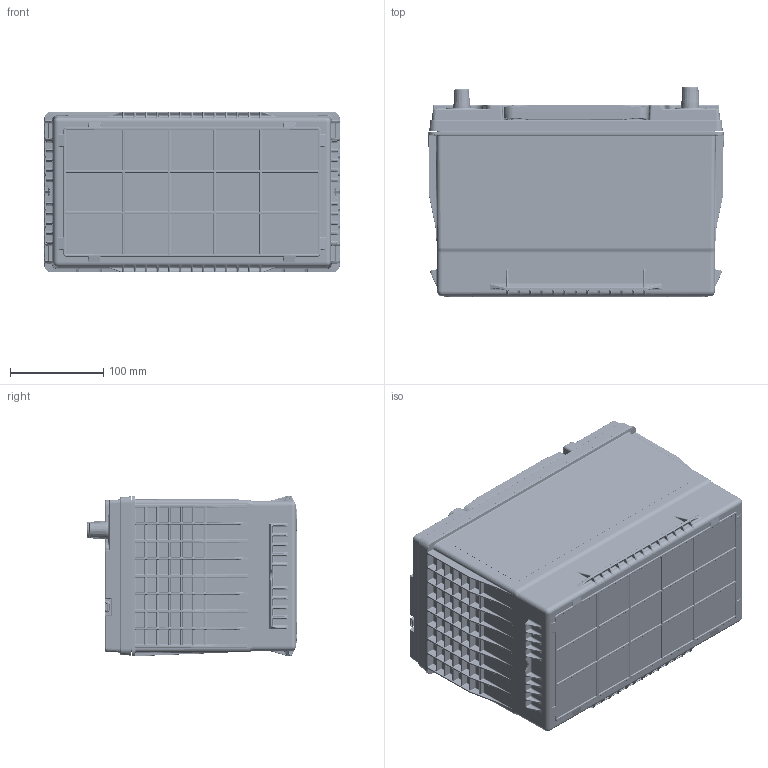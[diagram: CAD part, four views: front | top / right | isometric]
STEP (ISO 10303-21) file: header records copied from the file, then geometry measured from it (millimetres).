
FILE_DESCRIPTION (( 'STEP AP203' ), '1' );
FILE_NAME ('ODP-AGM27F.STEP', '2024-03-25T20:24:32', ( '' ), ( '' ), 'SwSTEP 2.0', 'SolidWorks 2022', '' );
FILE_SCHEMA (( 'CONFIG_CONTROL_DESIGN' ));
Products named in the file (1): ODP-AGM27F
Bounding box: 316 x 224.71 x 172 mm (x, y, z)
Volume: 1653730.6 mm3; surface area: 1246918.1 mm2
Topology: 31 solids, 31 shells, 12777 faces, 30246 edges, 16651 vertices
Faces by surface type: cylinder 4700, bspline 3626, plane 2508, sphere 1047, torus 521, cone 375
Full cylindrical faces by diameter (mm): 6.35 x2, 6.777 x2, 7.7 x6, 10.084 x2, 10.1 x6, 10.312 x2, 11.654 x2, 11.659 x2, 12.573 x2, 13.716 x2, 14.275 x4, 15.24 x2, 15.85 x2, 15.875 x4, 16.154 x2, 19.025 x2, 19.101 x2, 19.329 x2, 20.625 x2, 25.4 x4, 28.55 x2, 28.575 x2
Entity records: 463243 total; most frequent: CARTESIAN_POINT 210109, ORIENTED_EDGE 57922, DIRECTION 47445, EDGE_CURVE 28961, AXIS2_PLACEMENT_3D 18296, VERTEX_POINT 16587, EDGE_LOOP 13162, FACE_OUTER_BOUND 12903
